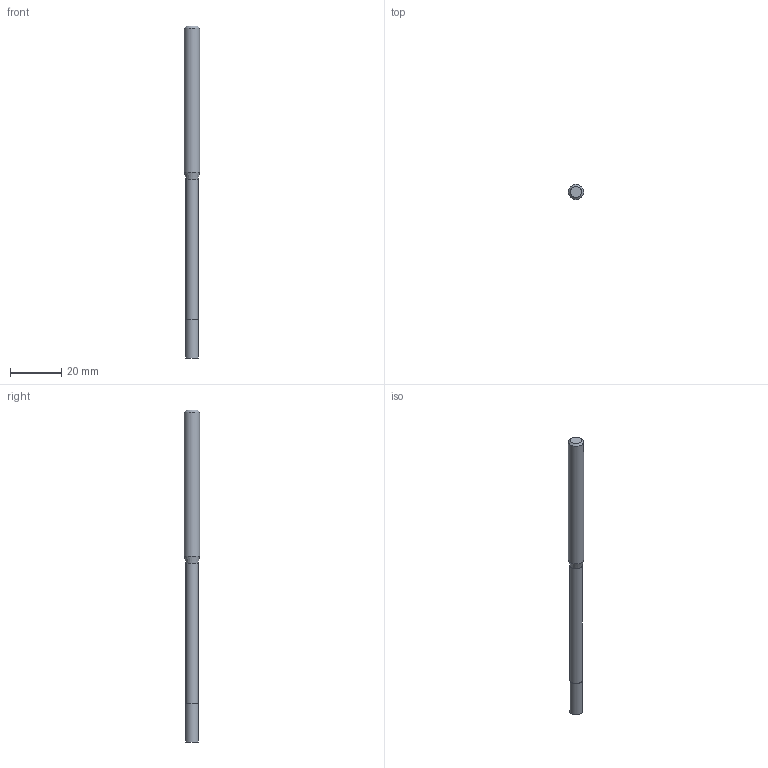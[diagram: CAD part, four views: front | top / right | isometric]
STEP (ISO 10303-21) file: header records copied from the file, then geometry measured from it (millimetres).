
FILE_DESCRIPTION((''),'2;1');
FILE_NAME('C:\Users\nsx150\Desktop\RSE230_20210427\01-00644-05070 RSE230 D5X15X70.step','2021-05-07T14:54:25',(''),(''),'STEP Write','Mastercam 2021 ... CNC Software, Inc.','');
FILE_SCHEMA(('AUTOMOTIVE_DESIGN'));
Length unit declared in the file: millimetre
Products named in the file (1): None
Bounding box: 6 x 6 x 130 mm (x, y, z)
Volume: 2965.8 mm3; surface area: 2267.7 mm2
Topology: 2 solids, 2 shells, 9 faces, 12 edges, 7 vertices
Faces by surface type: plane 4, cylinder 3, cone 2
Full cylindrical faces by diameter (mm): 4.8 x1, 5 x1, 6 x1
Entity records: 211 total; most frequent: DIRECTION 36, CARTESIAN_POINT 25, AXIS2_PLACEMENT_3D 18, ORIENTED_EDGE 14, EDGE_LOOP 14, STYLED_ITEM 12, ADVANCED_FACE 9, FACE_BOUND 8
